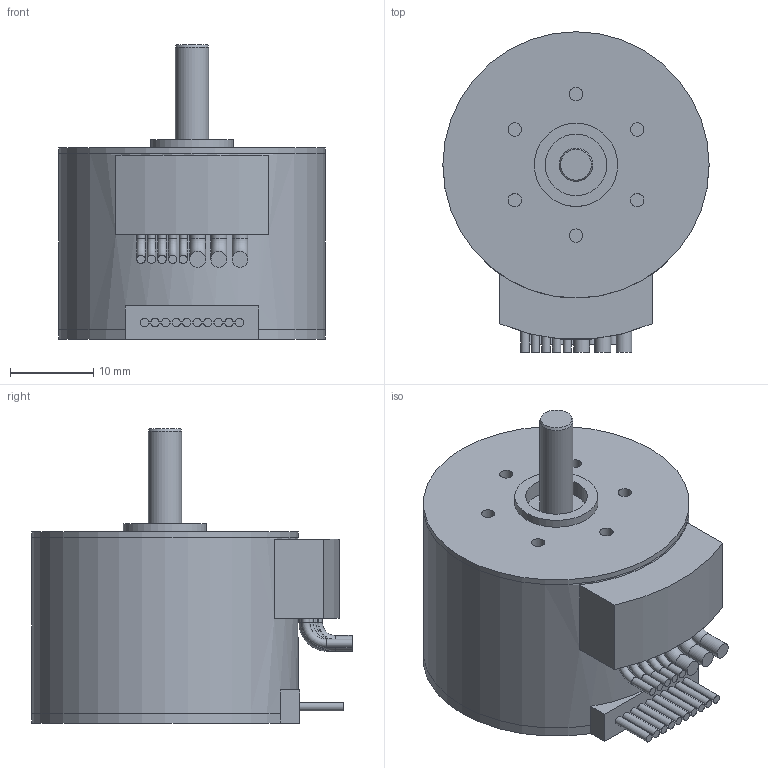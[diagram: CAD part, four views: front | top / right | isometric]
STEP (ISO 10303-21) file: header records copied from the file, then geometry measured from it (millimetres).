
FILE_DESCRIPTION(/* description */ (''),/* implementation_level */ '2;1');
FILE_NAME(/* name */ '3216.BXT_IEF3_L.stp',/* time_stamp */ '2019-09-17T16:18:35+02:00',/* author */ ('DR. FRITZ FAULHABER GmbH & Co. KG'),/* organization */ ('DR. FRITZ FAULHABER GmbH & Co. KG'),/* preprocessor_version */ 'ST-DEVELOPER v16.7',/* originating_system */ 'SIEMENS PLM Software NX 12.0',/* authorisation */ '');
FILE_SCHEMA (('AUTOMOTIVE_DESIGN { 1 0 10303 214 3 1 1 1 }'));
Length unit declared in the file: millimetre
Products named in the file (1): H00002278-A-3216.0H007
Bounding box: 32 x 38.5 x 35.4 mm (x, y, z)
Volume: 19729.6 mm3; surface area: 5007.3 mm2
Topology: 1 solids, 1 shells, 110 faces, 244 edges, 156 vertices
Faces by surface type: plane 52, cylinder 49, torus 8, cone 1
Full cylindrical faces by diameter (mm): 1 x10, 1.6 x6, 1.9 x6, 4 x1, 7.4 x1, 10 x1, 31.999 x1, 32 x2
Entity records: 2848 total; most frequent: DIRECTION 526, CARTESIAN_POINT 465, ORIENTED_EDGE 404, AXIS2_PLACEMENT_3D 213, EDGE_CURVE 202, EDGE_LOOP 168, VERTEX_POINT 152, ADVANCED_FACE 110
